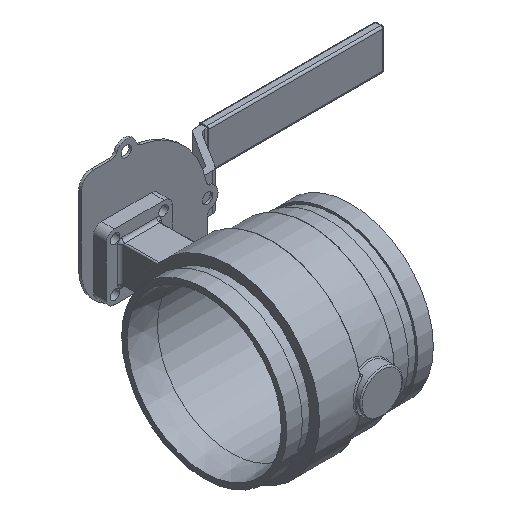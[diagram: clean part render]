
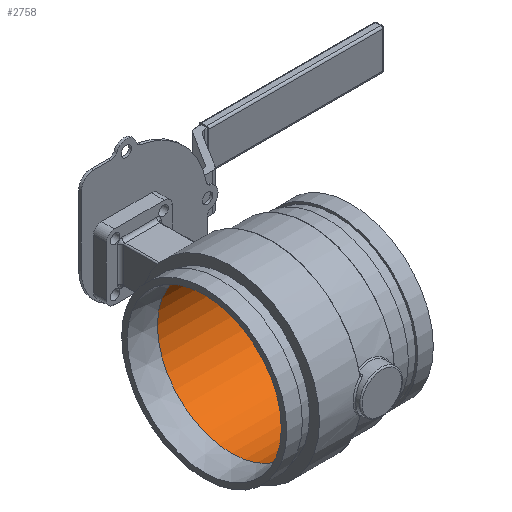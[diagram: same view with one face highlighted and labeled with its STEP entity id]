
A CAD part, isometric view. The second image highlights one B-rep face of the part: STEP entity #2758.
In plain terms, the highlighted cylindrical face has radius 75.438 mm (diameter 150.876 mm), a full revolution.
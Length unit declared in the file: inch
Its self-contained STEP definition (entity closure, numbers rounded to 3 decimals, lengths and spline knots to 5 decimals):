
#274=FACE_OUTER_BOUND('',#446,.T.);
#446=EDGE_LOOP('',(#2106,#2107,#2108,#2109,#2110,#2111));
#595=LINE('',#5297,#766);
#766=VECTOR('',#3713,2.97);
#968=CIRCLE('',#3090,2.97);
#971=CIRCLE('',#3093,2.97);
#990=CIRCLE('',#3123,2.97);
#991=CIRCLE('',#3124,2.97);
#1167=VERTEX_POINT('',#5231);
#1168=VERTEX_POINT('',#5232);
#1189=VERTEX_POINT('',#5291);
#1190=VERTEX_POINT('',#5293);
#1483=EDGE_CURVE('',#1167,#1168,#968,.T.);
#1487=EDGE_CURVE('',#1168,#1167,#971,.T.);
#1511=EDGE_CURVE('',#1190,#1189,#990,.T.);
#1512=EDGE_CURVE('',#1189,#1190,#991,.T.);
#1513=EDGE_CURVE('',#1189,#1168,#595,.T.);
#2106=ORIENTED_EDGE('',*,*,#1511,.T.);
#2107=ORIENTED_EDGE('',*,*,#1513,.T.);
#2108=ORIENTED_EDGE('',*,*,#1483,.F.);
#2109=ORIENTED_EDGE('',*,*,#1487,.F.);
#2110=ORIENTED_EDGE('',*,*,#1513,.F.);
#2111=ORIENTED_EDGE('',*,*,#1512,.T.);
#2482=CYLINDRICAL_SURFACE('',#3125,2.97);
#2758=ADVANCED_FACE('',(#274),#2482,.F.);
#3090=AXIS2_PLACEMENT_3D('',#5233,#3635,#3636);
#3093=AXIS2_PLACEMENT_3D('',#5239,#3642,#3643);
#3123=AXIS2_PLACEMENT_3D('',#5294,#3707,#3708);
#3124=AXIS2_PLACEMENT_3D('',#5295,#3709,#3710);
#3125=AXIS2_PLACEMENT_3D('',#5296,#3711,#3712);
#3635=DIRECTION('center_axis',(0.,0.,-1.));
#3636=DIRECTION('ref_axis',(1.,0.,0.));
#3642=DIRECTION('center_axis',(0.,0.,-1.));
#3643=DIRECTION('ref_axis',(1.,0.,0.));
#3707=DIRECTION('center_axis',(0.,0.,-1.));
#3708=DIRECTION('ref_axis',(1.,0.,0.));
#3709=DIRECTION('center_axis',(0.,0.,-1.));
#3710=DIRECTION('ref_axis',(1.,0.,0.));
#3711=DIRECTION('center_axis',(0.,0.,-1.));
#3712=DIRECTION('ref_axis',(0.,1.,0.));
#3713=DIRECTION('',(0.,0.,1.));
#5231=CARTESIAN_POINT('',(0.,2.97,2.16));
#5232=CARTESIAN_POINT('',(0.,-2.97,2.16));
#5233=CARTESIAN_POINT('Origin',(0.,0.,2.16));
#5239=CARTESIAN_POINT('Origin',(0.,0.,2.16));
#5291=CARTESIAN_POINT('',(0.,-2.97,-1.54));
#5293=CARTESIAN_POINT('',(0.,2.97,-1.54));
#5294=CARTESIAN_POINT('Origin',(0.,0.,-1.54));
#5295=CARTESIAN_POINT('Origin',(0.,0.,-1.54));
#5296=CARTESIAN_POINT('Origin',(0.,0.,-0.615));
#5297=CARTESIAN_POINT('',(0.,-2.97,-0.615));
